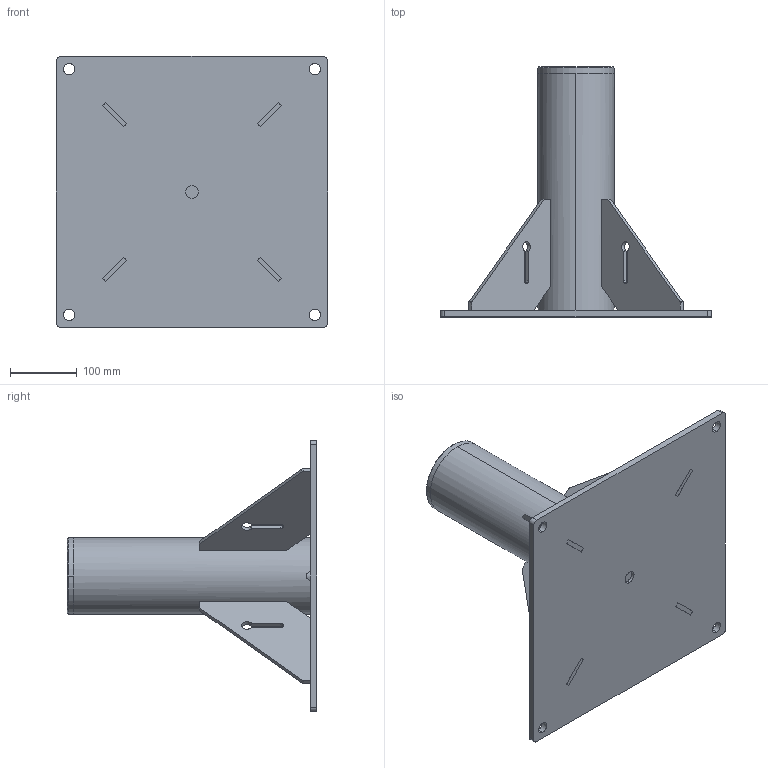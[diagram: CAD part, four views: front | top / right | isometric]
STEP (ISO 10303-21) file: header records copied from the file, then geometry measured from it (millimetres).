
FILE_DESCRIPTION (( 'STEP AP203' ), '1' );
FILE_NAME ('OZPED1.STEP', '2022-03-02T20:33:15', ( '' ), ( '' ), 'SwSTEP 2.0', 'SolidWorks 2021', '' );
FILE_SCHEMA (( 'CONFIG_CONTROL_DESIGN' ));
Length unit declared in the file: inch
Products named in the file (7): DC10PC7250; DC10PC7100; DC10PC7240; DC10PC7220; DC10PC7210; OZPED1; DC10PC7000
Assembly tree (9 placements, depth 3):
  OZPED1
    DC10PC7000
      DC10PC7210
      DC10PC7220
      DC10PC7250
      DC10PC7240  x4
    DC10PC7100
Bounding box: 406.4 x 374.65 x 406.4 mm (x, y, z)
Volume: 2824349.5 mm3; surface area: 789095.5 mm2
Topology: 8 solids, 8 shells, 156 faces, 406 edges, 268 vertices
Faces by surface type: plane 88, cylinder 60, cone 8
Entity records: 3874 total; most frequent: CARTESIAN_POINT 663, DIRECTION 529, ORIENTED_EDGE 470, EDGE_CURVE 235, AXIS2_PLACEMENT_3D 192, VERTEX_POINT 154, LINE 145, VECTOR 145
